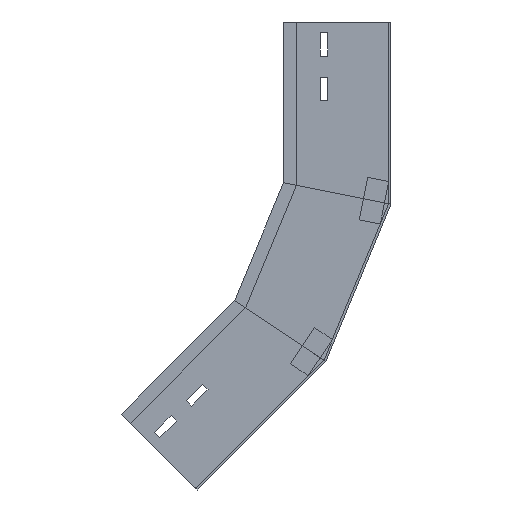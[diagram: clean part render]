
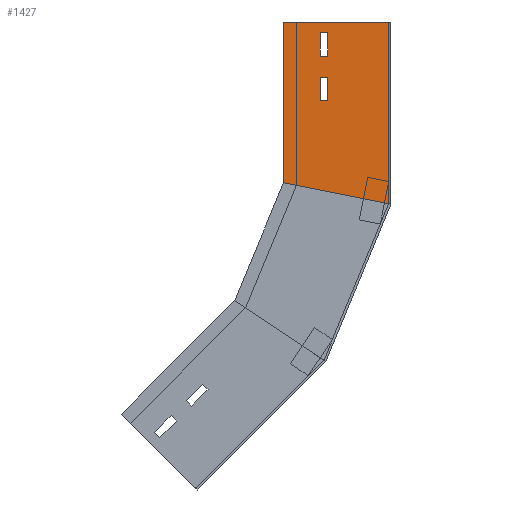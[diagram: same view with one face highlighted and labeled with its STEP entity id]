
A CAD part, left-side view. The second image highlights one B-rep face of the part: STEP entity #1427.
In plain terms, the highlighted planar face has unit normal (-1, 0, 0) as drawn and (1, 0, 0) by its records, which use the part's own axes.
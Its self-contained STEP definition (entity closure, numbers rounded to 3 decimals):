
#22 = CARTESIAN_POINT ( 'NONE',  ( 0., 180.581, -435.96 ) ) ;
#61 = LINE ( 'NONE', #294, #404 ) ;
#74 = DIRECTION ( 'NONE',  ( 0., 0.707, -0.707 ) ) ;
#75 = CARTESIAN_POINT ( 'NONE',  ( 0., 220.295, -382.337 ) ) ;
#109 = CARTESIAN_POINT ( 'NONE',  ( 0., 60.655, -316.035 ) ) ;
#115 = ORIENTED_EDGE ( 'NONE', *, *, #1160, .T. ) ;
#131 = VECTOR ( 'NONE', #1164, 1000. ) ;
#134 = CARTESIAN_POINT ( 'NONE',  ( 0., 190.83, -352.872 ) ) ;
#147 = EDGE_CURVE ( 'NONE', #359, #1114, #1421, .T. ) ;
#172 = VECTOR ( 'NONE', #692, 1000. ) ;
#175 = VECTOR ( 'NONE', #882, 1000. ) ;
#198 = VECTOR ( 'NONE', #713, 1000. ) ;
#219 = ORIENTED_EDGE ( 'NONE', *, *, #946, .F. ) ;
#252 = CARTESIAN_POINT ( 'NONE',  ( 0., 131.366, -245.324 ) ) ;
#286 = VERTEX_POINT ( 'NONE', #312 ) ;
#294 = CARTESIAN_POINT ( 'NONE',  ( 0., 204.739, -366.78 ) ) ;
#312 = CARTESIAN_POINT ( 'NONE',  ( 0., 199.789, -371.73 ) ) ;
#341 = LINE ( 'NONE', #1257, #949 ) ;
#344 = EDGE_CURVE ( 'NONE', #1052, #473, #1138, .T. ) ;
#359 = VERTEX_POINT ( 'NONE', #548 ) ;
#370 = CARTESIAN_POINT ( 'NONE',  ( 0., 170.324, -342.265 ) ) ;
#371 = ORIENTED_EDGE ( 'NONE', *, *, #742, .F. ) ;
#386 = VECTOR ( 'NONE', #681, 1000. ) ;
#394 = EDGE_CURVE ( 'NONE', #1107, #721, #468, .T. ) ;
#402 = DIRECTION ( 'NONE',  ( 0., 0., 1. ) ) ;
#404 = VECTOR ( 'NONE', #1098, 1000. ) ;
#434 = CARTESIAN_POINT ( 'NONE',  ( 0., 215.346, -387.287 ) ) ;
#436 = LINE ( 'NONE', #910, #1269 ) ;
#438 = CARTESIAN_POINT ( 'NONE',  ( 0., 60.655, -316.035 ) ) ;
#457 = ORIENTED_EDGE ( 'NONE', *, *, #1240, .T. ) ;
#462 = CARTESIAN_POINT ( 'NONE',  ( 0., 175.274, -337.315 ) ) ;
#468 = LINE ( 'NONE', #1393, #172 ) ;
#473 = VERTEX_POINT ( 'NONE', #1298 ) ;
#493 = LINE ( 'NONE', #252, #131 ) ;
#548 = CARTESIAN_POINT ( 'NONE',  ( 0., 220.295, -382.337 ) ) ;
#549 = VECTOR ( 'NONE', #700, 1000. ) ;
#551 = CARTESIAN_POINT ( 'NONE',  ( 0., 86.366, -298.856 ) ) ;
#556 = ORIENTED_EDGE ( 'NONE', *, *, #682, .F. ) ;
#557 = EDGE_LOOP ( 'NONE', ( #1156, #556, #619, #219 ) ) ;
#590 = CARTESIAN_POINT ( 'NONE',  ( 0., 145.431, -259.389 ) ) ;
#598 = EDGE_CURVE ( 'NONE', #721, #878, #436, .T. ) ;
#615 = VECTOR ( 'NONE', #894, 1000. ) ;
#619 = ORIENTED_EDGE ( 'NONE', *, *, #634, .F. ) ;
#627 = ORIENTED_EDGE ( 'NONE', *, *, #344, .T. ) ;
#634 = EDGE_CURVE ( 'NONE', #286, #848, #1126, .T. ) ;
#681 = DIRECTION ( 'NONE',  ( 0., -0.707, 0.707 ) ) ;
#682 = EDGE_CURVE ( 'NONE', #848, #359, #1270, .T. ) ;
#686 = EDGE_LOOP ( 'NONE', ( #371, #1317, #1100, #953 ) ) ;
#692 = DIRECTION ( 'NONE',  ( 0., -0.707, -0.707 ) ) ;
#700 = DIRECTION ( 'NONE',  ( 0., 0.707, 0.707 ) ) ;
#713 = DIRECTION ( 'NONE',  ( 0., -0.707, 0.707 ) ) ;
#721 = VERTEX_POINT ( 'NONE', #370 ) ;
#741 = EDGE_CURVE ( 'NONE', #1224, #1429, #493, .T. ) ;
#742 = EDGE_CURVE ( 'NONE', #987, #1107, #1399, .T. ) ;
#759 = EDGE_LOOP ( 'NONE', ( #115, #627, #457, #929 ) ) ;
#795 = CARTESIAN_POINT ( 'NONE',  ( 0., 215.346, -387.287 ) ) ;
#798 = VECTOR ( 'NONE', #74, 1000. ) ;
#802 = VECTOR ( 'NONE', #1054, 1000. ) ;
#834 = CARTESIAN_POINT ( 'NONE',  ( 0., 185.88, -357.821 ) ) ;
#848 = VERTEX_POINT ( 'NONE', #434 ) ;
#849 = DIRECTION ( 'NONE',  ( -1., 0., 0. ) ) ;
#875 = CARTESIAN_POINT ( 'NONE',  ( 0., 204.739, -366.78 ) ) ;
#878 = VERTEX_POINT ( 'NONE', #834 ) ;
#882 = DIRECTION ( 'NONE',  ( 0., -0.831, -0.556 ) ) ;
#894 = DIRECTION ( 'NONE',  ( 0., 0.707, -0.707 ) ) ;
#910 = CARTESIAN_POINT ( 'NONE',  ( 0., 185.88, -357.821 ) ) ;
#929 = ORIENTED_EDGE ( 'NONE', *, *, #741, .F. ) ;
#946 = EDGE_CURVE ( 'NONE', #1114, #286, #61, .T. ) ;
#949 = VECTOR ( 'NONE', #1359, 1000. ) ;
#953 = ORIENTED_EDGE ( 'NONE', *, *, #394, .F. ) ;
#966 = FACE_BOUND ( 'NONE', #686, .T. ) ;
#971 = AXIS2_PLACEMENT_3D ( 'NONE', #1436, #849, #402 ) ;
#987 = VERTEX_POINT ( 'NONE', #1326 ) ;
#1052 = VERTEX_POINT ( 'NONE', #438 ) ;
#1054 = DIRECTION ( 'NONE',  ( 0., 0.707, 0.707 ) ) ;
#1057 = EDGE_CURVE ( 'NONE', #878, #987, #341, .T. ) ;
#1082 = FACE_BOUND ( 'NONE', #557, .T. ) ;
#1098 = DIRECTION ( 'NONE',  ( 0., -0.707, -0.707 ) ) ;
#1100 = ORIENTED_EDGE ( 'NONE', *, *, #598, .F. ) ;
#1107 = VERTEX_POINT ( 'NONE', #462 ) ;
#1112 = LINE ( 'NONE', #551, #175 ) ;
#1114 = VERTEX_POINT ( 'NONE', #875 ) ;
#1126 = LINE ( 'NONE', #795, #615 ) ;
#1138 = LINE ( 'NONE', #109, #798 ) ;
#1156 = ORIENTED_EDGE ( 'NONE', *, *, #147, .F. ) ;
#1160 = EDGE_CURVE ( 'NONE', #1224, #1052, #1112, .T. ) ;
#1164 = DIRECTION ( 'NONE',  ( 0., 0.707, -0.707 ) ) ;
#1178 = LINE ( 'NONE', #22, #802 ) ;
#1200 = CARTESIAN_POINT ( 'NONE',  ( 0., 251.291, -365.25 ) ) ;
#1208 = PLANE ( 'NONE',  #971 ) ;
#1224 = VERTEX_POINT ( 'NONE', #590 ) ;
#1240 = EDGE_CURVE ( 'NONE', #473, #1429, #1178, .T. ) ;
#1257 = CARTESIAN_POINT ( 'NONE',  ( 0., 190.83, -352.872 ) ) ;
#1261 = DIRECTION ( 'NONE',  ( 0., 0.707, -0.707 ) ) ;
#1269 = VECTOR ( 'NONE', #1261, 1000. ) ;
#1270 = LINE ( 'NONE', #75, #549 ) ;
#1280 = CARTESIAN_POINT ( 'NONE',  ( 0., 220.295, -382.337 ) ) ;
#1298 = CARTESIAN_POINT ( 'NONE',  ( 0., 180.581, -435.96 ) ) ;
#1317 = ORIENTED_EDGE ( 'NONE', *, *, #1057, .F. ) ;
#1326 = CARTESIAN_POINT ( 'NONE',  ( 0., 190.83, -352.872 ) ) ;
#1359 = DIRECTION ( 'NONE',  ( 0., 0.707, 0.707 ) ) ;
#1393 = CARTESIAN_POINT ( 'NONE',  ( 0., 175.274, -337.315 ) ) ;
#1399 = LINE ( 'NONE', #134, #198 ) ;
#1421 = LINE ( 'NONE', #1280, #386 ) ;
#1427 = ADVANCED_FACE ( 'NONE', ( #1082, #966, #1430 ), #1208, .F. ) ;
#1429 = VERTEX_POINT ( 'NONE', #1200 ) ;
#1430 = FACE_OUTER_BOUND ( 'NONE', #759, .T. ) ;
#1436 = CARTESIAN_POINT ( 'NONE',  ( 0., 60.655, -316.035 ) ) ;
